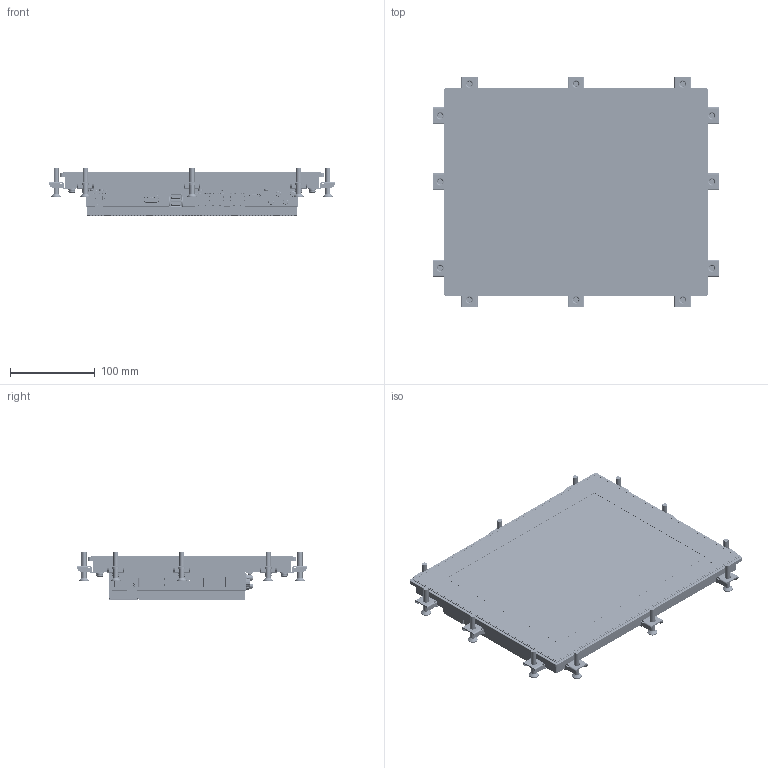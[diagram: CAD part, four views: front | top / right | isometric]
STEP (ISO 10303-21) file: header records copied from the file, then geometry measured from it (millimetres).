
FILE_DESCRIPTION((''),'2;1');
FILE_NAME('AP4C-121','2026-06-02T11:48:24',('gijyu181'),(''),'CREO PARAMETRIC BY PTC INC, 2018050','CREO PARAMETRIC BY PTC INC, 2018050','');
FILE_SCHEMA(('CONFIG_CONTROL_DESIGN','SHAPE_APPEARANCE_LAYERS_GROUPS'));
Products named in the file (1): AP4C-121
Bounding box: 337 x 271 x 57.5 mm (x, y, z)
Volume: 1281450.9 mm3; surface area: 854888.3 mm2
Topology: 26 solids, 108 shells, 32921 faces, 94773 edges, 62480 vertices
Faces by surface type: plane 22620, cylinder 7407, extrusion 1462, cone 603, bspline 334, torus 305, sphere 178, revolution 12
Entity records: 1239176 total; most frequent: CARTESIAN_POINT 234189, ORIENTED_EDGE 188451, DIRECTION 169903, EDGE_CURVE 94653, VECTOR 74255, LINE 72793, VERTEX_POINT 62481, AXIS2_PLACEMENT_3D 47818
